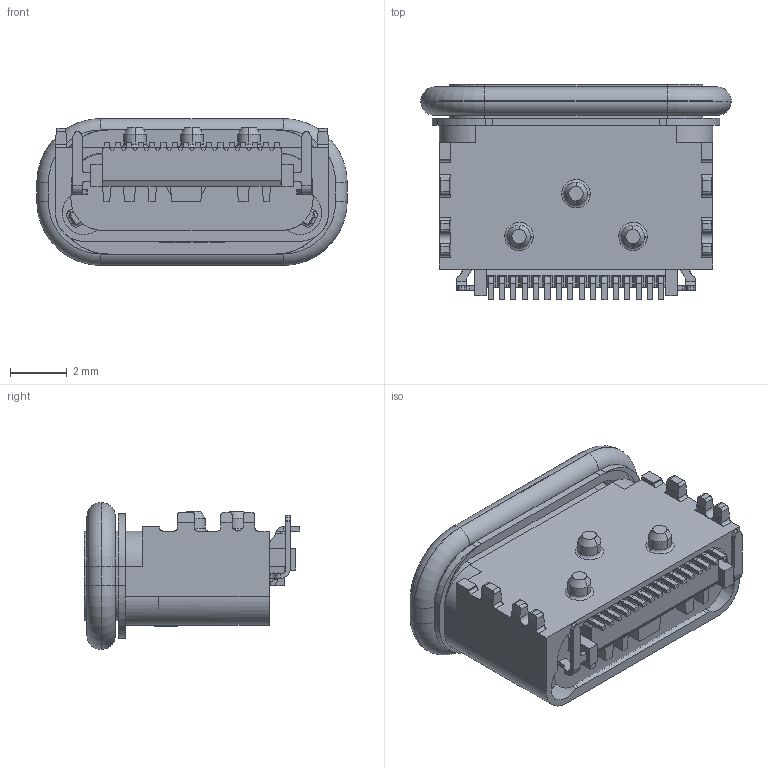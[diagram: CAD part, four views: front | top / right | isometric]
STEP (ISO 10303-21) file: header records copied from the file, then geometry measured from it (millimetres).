
FILE_DESCRIPTION (( 'STEP AP203' ), '1' );
FILE_NAME ('U5358-16PN6.5LF(1).STEP', '2026-08-19T09:11:26', ( '' ), ( '' ), 'SwSTEP 2.0', 'SolidWorks 2020', '' );
FILE_SCHEMA (( 'CONFIG_CONTROL_DESIGN' ));
Length unit declared in the file: millimetre
Products named in the file (24): PRT0011^ASM0002_ASM_U5358-16PN6.5LF(2)_U5358-16PN6.5LF; PRT0016^ASM0002_ASM_U5358-16PN6.5LF(2)_U5358-16PN6.5LF; PRT0007^ASM0002_ASM_U5358-16PN6.5LF(2)_U5358-16PN6.5LF; PRT0003^ASM0002_ASM_U5358-16PN6.5LF(2)_U5358-16PN6.5LF; PRT0014^ASM0002_ASM_U5358-16PN6.5LF(2)_U5358-16PN6.5LF; PRT0017^ASM0002_ASM_U5358-16PN6.5LF(2)_U5358-16PN6.5LF; PRT0009^ASM0002_ASM_U5358-16PN6.5LF(2)_U5358-16PN6.5LF; U5358-16PN6.5LF(1); ASM0002_ASM-0^ASM0002_ASM_U5358-16PN6.5LF(2)_U5358-16PN6.5LF; PRT0002^ASM0002_ASM_U5358-16PN6.5LF(2)_U5358-16PN6.5LF; PRT0020^ASM0002_ASM_U5358-16PN6.5LF(2)_U5358-16PN6.5LF; PRT0008^ASM0002_ASM_U5358-16PN6.5LF(2)_U5358-16PN6.5LF; PRT0004^ASM0002_ASM_U5358-16PN6.5LF(2)_U5358-16PN6.5LF; PRT0010^ASM0002_ASM_U5358-16PN6.5LF(2)_U5358-16PN6.5LF; ASM0002_ASM^U5358-16PN6.5LF(2)_U5358-16PN6.5LF; PRT0012^ASM0002_ASM_U5358-16PN6.5LF(2)_U5358-16PN6.5LF; PRT0013^ASM0002_ASM_U5358-16PN6.5LF(2)_U5358-16PN6.5LF; U5358-16PN6.5LF(2)^U5358-16PN6.5LF; PRT0001^ASM0002_ASM_U5358-16PN6.5LF(2)_U5358-16PN6.5LF; PRT0015^ASM0002_ASM_U5358-16PN6.5LF(2)_U5358-16PN6.5LF; PRT0018^ASM0002_ASM_U5358-16PN6.5LF(2)_U5358-16PN6.5LF; PRT0005^ASM0002_ASM_U5358-16PN6.5LF(2)_U5358-16PN6.5LF; PRT0006^ASM0002_ASM_U5358-16PN6.5LF(2)_U5358-16PN6.5LF; PRT0019^ASM0002_ASM_U5358-16PN6.5LF(2)_U5358-16PN6.5LF
Assembly tree (23 placements, depth 4):
  U5358-16PN6.5LF(1)
    U5358-16PN6.5LF(2)^U5358-16PN6.5LF
      ASM0002_ASM^U5358-16PN6.5LF(2)_U5358-16PN6.5LF
        PRT0001^ASM0002_ASM_U5358-16PN6.5LF(2)_U5358-16PN6.5LF
        PRT0002^ASM0002_ASM_U5358-16PN6.5LF(2)_U5358-16PN6.5LF
        PRT0003^ASM0002_ASM_U5358-16PN6.5LF(2)_U5358-16PN6.5LF
        PRT0004^ASM0002_ASM_U5358-16PN6.5LF(2)_U5358-16PN6.5LF
        PRT0005^ASM0002_ASM_U5358-16PN6.5LF(2)_U5358-16PN6.5LF
        PRT0006^ASM0002_ASM_U5358-16PN6.5LF(2)_U5358-16PN6.5LF
        PRT0007^ASM0002_ASM_U5358-16PN6.5LF(2)_U5358-16PN6.5LF
        PRT0008^ASM0002_ASM_U5358-16PN6.5LF(2)_U5358-16PN6.5LF
        PRT0009^ASM0002_ASM_U5358-16PN6.5LF(2)_U5358-16PN6.5LF
        PRT0010^ASM0002_ASM_U5358-16PN6.5LF(2)_U5358-16PN6.5LF
        PRT0011^ASM0002_ASM_U5358-16PN6.5LF(2)_U5358-16PN6.5LF
        PRT0012^ASM0002_ASM_U5358-16PN6.5LF(2)_U5358-16PN6.5LF
        PRT0013^ASM0002_ASM_U5358-16PN6.5LF(2)_U5358-16PN6.5LF
        PRT0014^ASM0002_ASM_U5358-16PN6.5LF(2)_U5358-16PN6.5LF
        PRT0015^ASM0002_ASM_U5358-16PN6.5LF(2)_U5358-16PN6.5LF
        PRT0016^ASM0002_ASM_U5358-16PN6.5LF(2)_U5358-16PN6.5LF
        PRT0017^ASM0002_ASM_U5358-16PN6.5LF(2)_U5358-16PN6.5LF
        PRT0018^ASM0002_ASM_U5358-16PN6.5LF(2)_U5358-16PN6.5LF
        PRT0019^ASM0002_ASM_U5358-16PN6.5LF(2)_U5358-16PN6.5LF
        PRT0020^ASM0002_ASM_U5358-16PN6.5LF(2)_U5358-16PN6.5LF
        ASM0002_ASM-0^ASM0002_ASM_U5358-16PN6.5LF(2)_U5358-16PN6.5LF
Bounding box: 10.9 x 7.58 x 5.16 mm (x, y, z)
Volume: 20.9 mm3; surface area: 870.8 mm2
Topology: 20 solids, 33 shells, 1779 faces, 4697 edges, 2963 vertices
Faces by surface type: plane 1337, cylinder 346, torus 38, cone 30, bspline 28
Entity records: 62427 total; most frequent: CARTESIAN_POINT 23840, ORIENTED_EDGE 9390, EDGE_CURVE 4697, DIRECTION 4460, B_SPLINE_CURVE_WITH_KNOTS 3917, VERTEX_POINT 2963, AXIS2_PLACEMENT_3D 1900, EDGE_LOOP 1836
